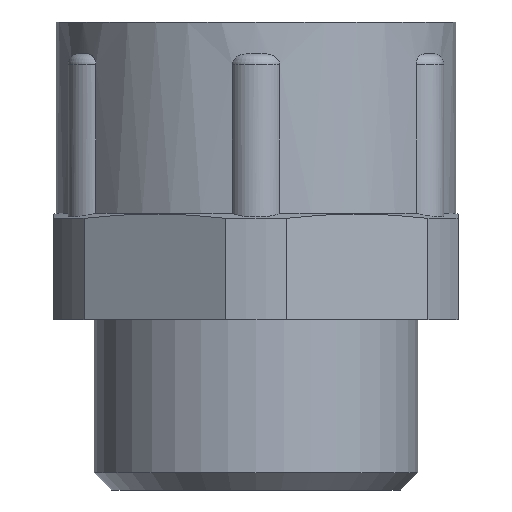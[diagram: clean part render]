
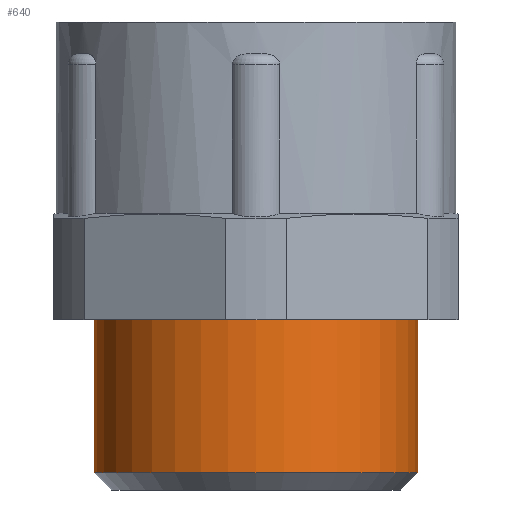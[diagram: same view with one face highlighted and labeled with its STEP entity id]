
A CAD part, front view. The second image highlights one B-rep face of the part: STEP entity #640.
In plain terms, the highlighted cylindrical face has radius 7.6 mm (diameter 15.2 mm), a partial arc.
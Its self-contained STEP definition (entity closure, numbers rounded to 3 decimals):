
#236 = EDGE_CURVE ( 'NONE', #334, #389, #1335, .T. ) ;
#334 = VERTEX_POINT ( 'NONE', #1680 ) ;
#335 = VERTEX_POINT ( 'NONE', #1679 ) ;
#337 = EDGE_CURVE ( 'NONE', #335, #386, #1678, .T. ) ;
#386 = VERTEX_POINT ( 'NONE', #1541 ) ;
#389 = VERTEX_POINT ( 'NONE', #1979 ) ;
#546 = EDGE_CURVE ( 'NONE', #335, #334, #2029, .T. ) ;
#639 = EDGE_CURVE ( 'NONE', #386, #389, #2229, .T. ) ;
#640 = ADVANCED_FACE ( 'NONE', ( #2220 ), #2219, .T. ) ;
#641 = EDGE_LOOP ( 'NONE', ( #749, #750, #662, #663 ) ) ;
#662 = ORIENTED_EDGE ( 'NONE', *, *, #236, .T. ) ;
#663 = ORIENTED_EDGE ( 'NONE', *, *, #639, .F. ) ;
#749 = ORIENTED_EDGE ( 'NONE', *, *, #337, .F. ) ;
#750 = ORIENTED_EDGE ( 'NONE', *, *, #546, .T. ) ;
#1332 = DIRECTION ( 'NONE',  ( 0., 0., -1. ) ) ;
#1333 = VECTOR ( 'NONE', #1332, 1000. ) ;
#1334 = CARTESIAN_POINT ( 'NONE',  ( -7.6, 0., 0. ) ) ;
#1335 = LINE ( 'NONE', #1334, #1333 ) ;
#1541 = CARTESIAN_POINT ( 'NONE',  ( 7.6, 0., 0.8 ) ) ;
#1675 = DIRECTION ( 'NONE',  ( 0., 0., -1. ) ) ;
#1676 = VECTOR ( 'NONE', #1675, 1000. ) ;
#1677 = CARTESIAN_POINT ( 'NONE',  ( 7.6, 0., 0. ) ) ;
#1678 = LINE ( 'NONE', #1677, #1676 ) ;
#1679 = CARTESIAN_POINT ( 'NONE',  ( 7.6, 0., 8. ) ) ;
#1680 = CARTESIAN_POINT ( 'NONE',  ( -7.6, 0., 8. ) ) ;
#1979 = CARTESIAN_POINT ( 'NONE',  ( -7.6, 0., 0.8 ) ) ;
#2025 = DIRECTION ( 'NONE',  ( -1., 0., 0. ) ) ;
#2026 = DIRECTION ( 'NONE',  ( 0., 0., -1. ) ) ;
#2027 = CARTESIAN_POINT ( 'NONE',  ( 0., 0., 8. ) ) ;
#2028 = AXIS2_PLACEMENT_3D ( 'NONE', #2027, #2026, #2025 ) ;
#2029 = CIRCLE ( 'NONE', #2028, 7.6 ) ;
#2213 = DIRECTION ( 'NONE',  ( -1., 0., 0. ) ) ;
#2214 = DIRECTION ( 'NONE',  ( 0., 0., -1. ) ) ;
#2215 = CARTESIAN_POINT ( 'NONE',  ( 0., 0., 0. ) ) ;
#2216 = AXIS2_PLACEMENT_3D ( 'NONE', #2215, #2214, #2213 ) ;
#2219 = CYLINDRICAL_SURFACE ( 'NONE', #2216, 7.6 ) ;
#2220 = FACE_OUTER_BOUND ( 'NONE', #641, .T. ) ;
#2221 = DIRECTION ( 'NONE',  ( -1., 0., 0. ) ) ;
#2222 = DIRECTION ( 'NONE',  ( 0., 0., -1. ) ) ;
#2223 = CARTESIAN_POINT ( 'NONE',  ( 0., 0., 0.8 ) ) ;
#2224 = AXIS2_PLACEMENT_3D ( 'NONE', #2223, #2222, #2221 ) ;
#2229 = CIRCLE ( 'NONE', #2224, 7.6 ) ;
